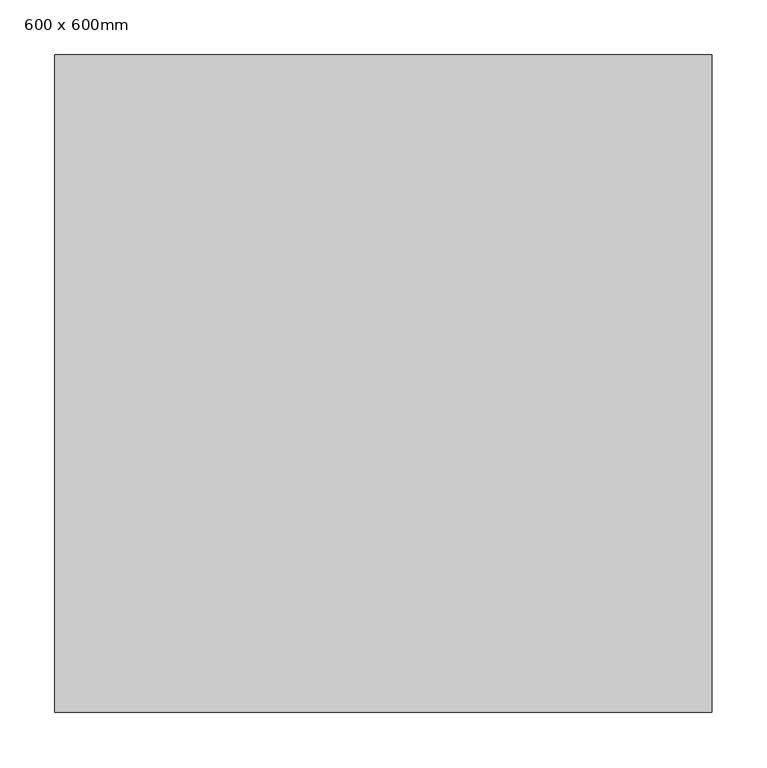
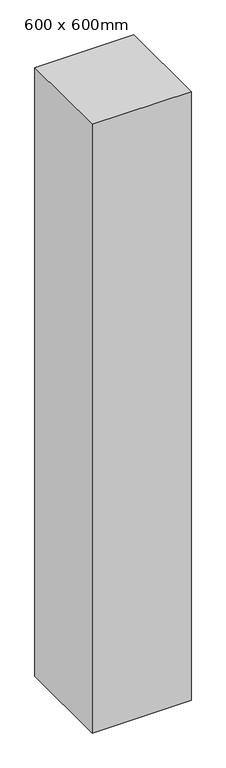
"""IFC4 building model written with IfcOpenShell, lengths in millimetres: column geometry, 混凝土 - 矩形 - 柱 : 600 x 600mm."""

from ifc_helpers import new_model, si_unit, frame, origin, place, context, project, spatial, polyline, outline, extrude, source, transform, mapped, element, save


def column_600_x_600mm_f4c2939b(model_context):
    return source(origin(), model_context, "Body", "SweptSolid", [
        extrude(outline(polyline([(300.0, 300.0), (300.0, -300.0), (-300.0, -300.0), (-300.0, 300.0), (300.0, 300.0)])), frame((0.0, 0.0, -300.0), z_axis=(0.0, 0.0, 1.0), x_axis=(1.0, 0.0, 0.0)), (0.0, 0.0, 1.0), 3900.0),
    ])


if __name__ == "__main__":
    model = new_model("IFC4")
    model_context = context("Model", 3, world=origin())
    ifc_project = project(units=[si_unit("LENGTHUNIT", "METRE", prefix="MILLI")], contexts=[model_context])
    site = spatial("IfcSite", under=ifc_project)
    building = spatial("IfcBuilding", under=site)
    placement = place(None, origin())
    column_600_x_600mm_shape = column_600_x_600mm_f4c2939b(model_context)
    element("IfcColumn", 1, ObjectType="混凝土 - 矩形 - 柱 : 600 x 600mm", at=placement, inside=building, context=model_context, shape_type="MappedRepresentation", body=[
        mapped(column_600_x_600mm_shape, transform((0.0, 0.0, 0.0), x_axis=(1.0, 0.0, 0.0), y_axis=(0.0, 1.0, 0.0), z_axis=(0.0, 0.0, 1.0))),
    ])
    save(model, "model.ifc")
